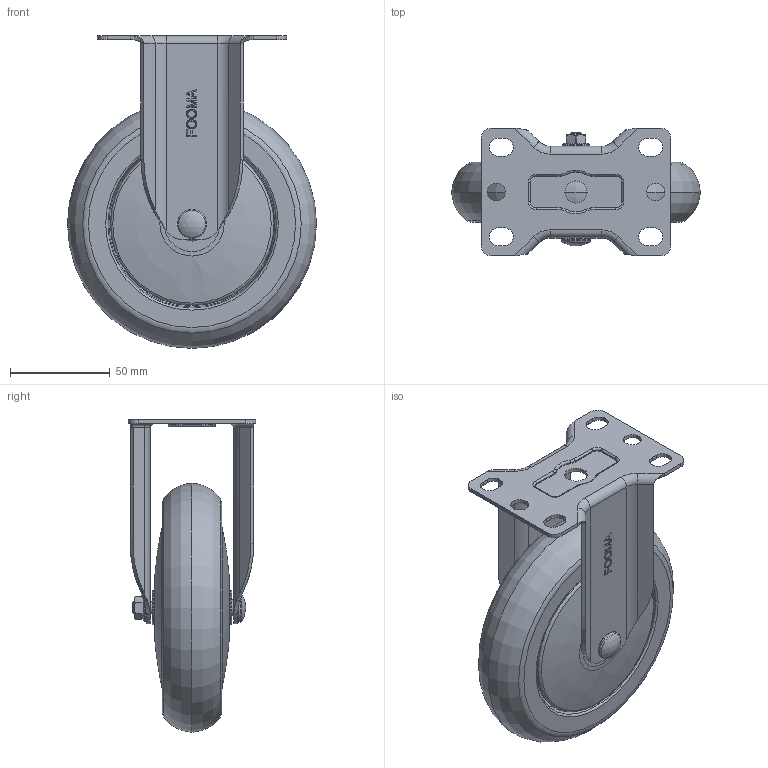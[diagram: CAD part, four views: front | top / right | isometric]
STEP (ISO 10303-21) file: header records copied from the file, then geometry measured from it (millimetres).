
FILE_DESCRIPTION(/* description */ (''),/* implementation_level */ '2;1');
FILE_NAME(/* name */ 'E:\홈피용도면\\X2\C2E0ADDCD648D398C774C9C0C6A9B3C4BA74\X0\\무소음캐스터\20160225-\X2\BB34C18CC74CCE90C2A4D130\X0\\GL-125-ARF.stp',/* time_stamp */ '2016-02-25T21:39:27+09:00',/* author */ ('장용하'),/* organization */ (''),/* preprocessor_version */ 'ST-DEVELOPER v15.6',/* originating_system */ 'Autodesk Inventor 2015',/* authorisation */ '');
FILE_SCHEMA (('AUTOMOTIVE_DESIGN { 1 0 10303 214 3 1 1 }'));
Length unit declared in the file: millimetre
Products named in the file (1): GL-125-ARF
Bounding box: 125 x 64 x 157 mm (x, y, z)
Volume: 285980.4 mm3; surface area: 95175.9 mm2
Topology: 2 solids, 2 shells, 974 faces, 2671 edges, 1734 vertices
Faces by surface type: plane 756, cylinder 92, torus 60, cone 35, bspline 30, sphere 1
Full cylindrical faces by diameter (mm): 6 x1, 6.2 x1, 6.294 x1, 8 x2, 9 x2, 11.2 x1, 14 x1, 14.6 x1, 22 x2
Entity records: 30712 total; most frequent: CARTESIAN_POINT 6182, ORIENTED_EDGE 5192, DIRECTION 4764, EDGE_CURVE 2592, LINE 2222, VECTOR 2222, VERTEX_POINT 1728, AXIS2_PLACEMENT_3D 1271
